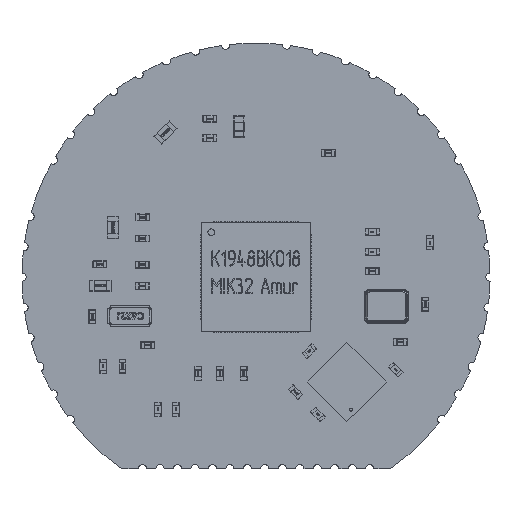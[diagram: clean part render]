
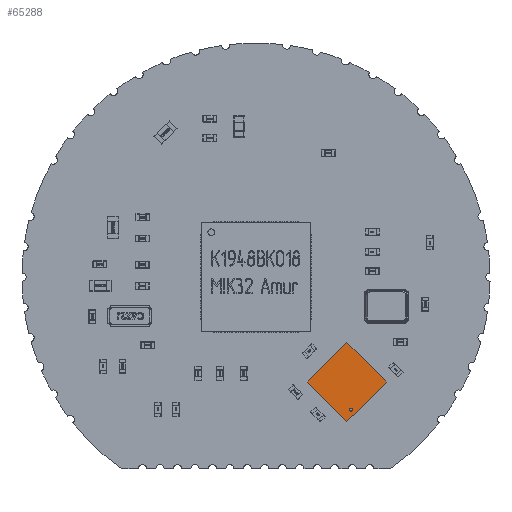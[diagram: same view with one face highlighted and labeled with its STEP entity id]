
A CAD part, top view. The second image highlights one B-rep face of the part: STEP entity #65288.
In plain terms, the highlighted planar face has unit normal (0, 0, 1).
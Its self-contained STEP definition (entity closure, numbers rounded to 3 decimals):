
#65167 = VERTEX_POINT('',#65168);
#65168 = CARTESIAN_POINT('',(2.045,-2.045,0.813));
#65174 = EDGE_CURVE('',#65175,#65167,#65177,.T.);
#65175 = VERTEX_POINT('',#65176);
#65176 = CARTESIAN_POINT('',(-2.045,-2.045,0.813));
#65177 = LINE('',#65178,#65179);
#65178 = CARTESIAN_POINT('',(-2.045,-2.045,0.813));
#65179 = VECTOR('',#65180,1.);
#65180 = DIRECTION('',(1.,0.,0.));
#65205 = VERTEX_POINT('',#65206);
#65206 = CARTESIAN_POINT('',(2.045,2.045,0.813));
#65212 = EDGE_CURVE('',#65167,#65205,#65213,.T.);
#65213 = LINE('',#65214,#65215);
#65214 = CARTESIAN_POINT('',(2.045,-2.045,0.813));
#65215 = VECTOR('',#65216,1.);
#65216 = DIRECTION('',(0.,1.,0.));
#65236 = VERTEX_POINT('',#65237);
#65237 = CARTESIAN_POINT('',(-2.045,2.045,0.813));
#65243 = EDGE_CURVE('',#65205,#65236,#65244,.T.);
#65244 = LINE('',#65245,#65246);
#65245 = CARTESIAN_POINT('',(2.045,2.045,0.813));
#65246 = VECTOR('',#65247,1.);
#65247 = DIRECTION('',(-1.,0.,0.));
#65265 = EDGE_CURVE('',#65236,#65175,#65266,.T.);
#65266 = LINE('',#65267,#65268);
#65267 = CARTESIAN_POINT('',(-2.045,2.045,0.813));
#65268 = VECTOR('',#65269,1.);
#65269 = DIRECTION('',(0.,-1.,0.));
#65288 = ADVANCED_FACE('',(#65289),#65295,.T.);
#65289 = FACE_BOUND('',#65290,.T.);
#65290 = EDGE_LOOP('',(#65291,#65292,#65293,#65294));
#65291 = ORIENTED_EDGE('',*,*,#65174,.T.);
#65292 = ORIENTED_EDGE('',*,*,#65212,.T.);
#65293 = ORIENTED_EDGE('',*,*,#65243,.T.);
#65294 = ORIENTED_EDGE('',*,*,#65265,.T.);
#65295 = PLANE('',#65296);
#65296 = AXIS2_PLACEMENT_3D('',#65297,#65298,#65299);
#65297 = CARTESIAN_POINT('',(-2.045,-2.045,0.813));
#65298 = DIRECTION('',(0.,0.,1.));
#65299 = DIRECTION('',(0.,1.,0.));
